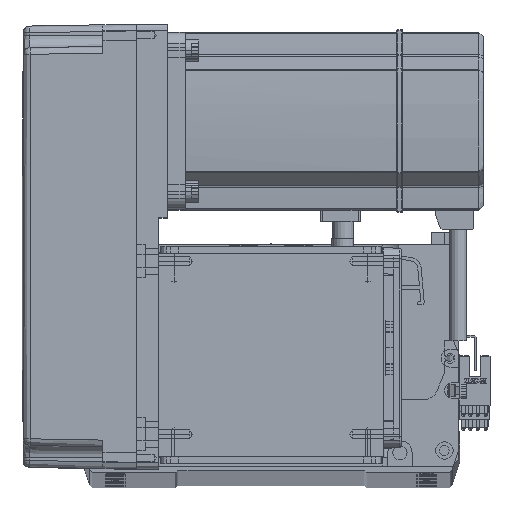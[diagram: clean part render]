
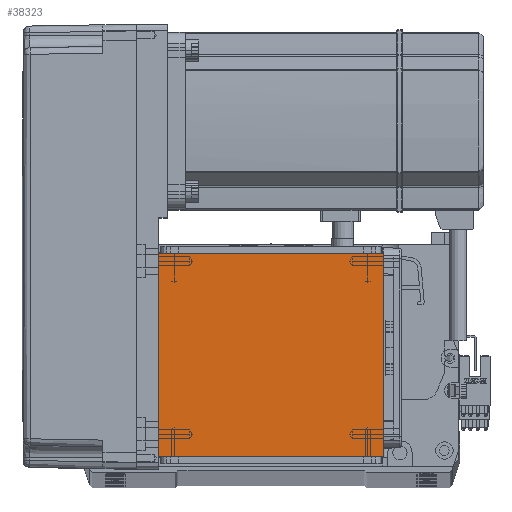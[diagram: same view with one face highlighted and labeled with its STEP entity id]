
A CAD part, top view. The second image highlights one B-rep face of the part: STEP entity #38323.
In plain terms, the highlighted planar face has unit normal (0, 0, 1).
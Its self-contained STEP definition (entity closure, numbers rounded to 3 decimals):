
#919 = EDGE_CURVE ( 'NONE', #46127, #25438, #27372, .T. ) ;
#2011 = ORIENTED_EDGE ( 'NONE', *, *, #19443, .F. ) ;
#3737 = VERTEX_POINT ( 'NONE', #23387 ) ;
#4741 = CARTESIAN_POINT ( 'NONE',  ( 0., 0., 115. ) ) ;
#6875 = VERTEX_POINT ( 'NONE', #42991 ) ;
#7219 = VECTOR ( 'NONE', #48886, 1000. ) ;
#8185 = DIRECTION ( 'NONE',  ( 0., 1., 0. ) ) ;
#10280 = CARTESIAN_POINT ( 'NONE',  ( 50.5, 20., 115. ) ) ;
#16465 = VECTOR ( 'NONE', #22954, 1000. ) ;
#16779 = CARTESIAN_POINT ( 'NONE',  ( -50.5, 122., 115. ) ) ;
#19443 = EDGE_CURVE ( 'NONE', #6875, #25438, #65986, .T. ) ;
#19816 = DIRECTION ( 'NONE',  ( 0., 0., 1. ) ) ;
#22709 = CARTESIAN_POINT ( 'NONE',  ( -70.004, 20., 115. ) ) ;
#22954 = DIRECTION ( 'NONE',  ( -1., 0., 0. ) ) ;
#23387 = CARTESIAN_POINT ( 'NONE',  ( -50.5, 20., 115. ) ) ;
#24532 = ORIENTED_EDGE ( 'NONE', *, *, #25262, .T. ) ;
#25262 = EDGE_CURVE ( 'NONE', #6875, #3737, #37183, .T. ) ;
#25438 = VERTEX_POINT ( 'NONE', #30721 ) ;
#27372 = LINE ( 'NONE', #34695, #61513 ) ;
#27739 = EDGE_CURVE ( 'NONE', #46127, #3737, #44753, .T. ) ;
#28285 = CARTESIAN_POINT ( 'NONE',  ( -70.004, 111.5, 115. ) ) ;
#29085 = FACE_OUTER_BOUND ( 'NONE', #30610, .T. ) ;
#30610 = EDGE_LOOP ( 'NONE', ( #2011, #24532, #56249, #41488 ) ) ;
#30721 = CARTESIAN_POINT ( 'NONE',  ( 50.5, 111.5, 115. ) ) ;
#32587 = VECTOR ( 'NONE', #54805, 1000. ) ;
#34695 = CARTESIAN_POINT ( 'NONE',  ( 50.5, 122., 115. ) ) ;
#35891 = PLANE ( 'NONE',  #68008 ) ;
#37183 = LINE ( 'NONE', #16779, #7219 ) ;
#38323 = ADVANCED_FACE ( 'NONE', ( #29085 ), #35891, .T. ) ;
#41222 = DIRECTION ( 'NONE',  ( 1., 0., 0. ) ) ;
#41488 = ORIENTED_EDGE ( 'NONE', *, *, #919, .T. ) ;
#42991 = CARTESIAN_POINT ( 'NONE',  ( -50.5, 111.5, 115. ) ) ;
#44753 = LINE ( 'NONE', #22709, #16465 ) ;
#46127 = VERTEX_POINT ( 'NONE', #10280 ) ;
#48886 = DIRECTION ( 'NONE',  ( 0., -1., 0. ) ) ;
#54805 = DIRECTION ( 'NONE',  ( 1., 0., 0. ) ) ;
#56249 = ORIENTED_EDGE ( 'NONE', *, *, #27739, .F. ) ;
#61513 = VECTOR ( 'NONE', #8185, 1000. ) ;
#65986 = LINE ( 'NONE', #28285, #32587 ) ;
#68008 = AXIS2_PLACEMENT_3D ( 'NONE', #4741, #19816, #41222 ) ;
